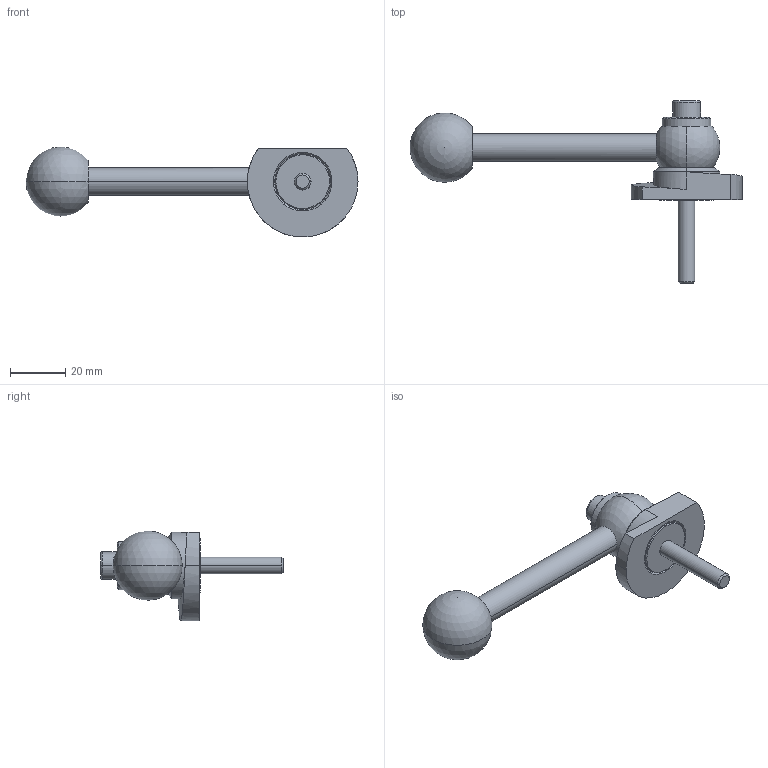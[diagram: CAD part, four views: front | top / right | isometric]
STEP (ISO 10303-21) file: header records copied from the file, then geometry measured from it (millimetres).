
FILE_DESCRIPTION (( 'STEP AP214' ), '1' );
FILE_NAME ('918.1-40-GVS-L-30.step', '2024-05-15T12:59:20', ( '' ), ( '' ), 'SwSTEP 2.0', 'SolidWorks 2022', '' );
FILE_SCHEMA (( 'AUTOMOTIVE_DESIGN' ));
Length unit declared in the file: millimetre
Products named in the file (1): 918.1-40-GVS-L-30
Bounding box: 120 x 66 x 32.5 mm (x, y, z)
Volume: 30356 mm3; surface area: 11304.5 mm2
Topology: 1 solids, 1 shells, 62 faces, 141 edges, 89 vertices
Faces by surface type: plane 20, cylinder 19, cone 14, sphere 4, bspline 3, torus 2
Entity records: 2003 total; most frequent: CARTESIAN_POINT 614, DIRECTION 304, ORIENTED_EDGE 262, EDGE_CURVE 131, AXIS2_PLACEMENT_3D 125, VERTEX_POINT 83, EDGE_LOOP 74, CIRCLE 65
